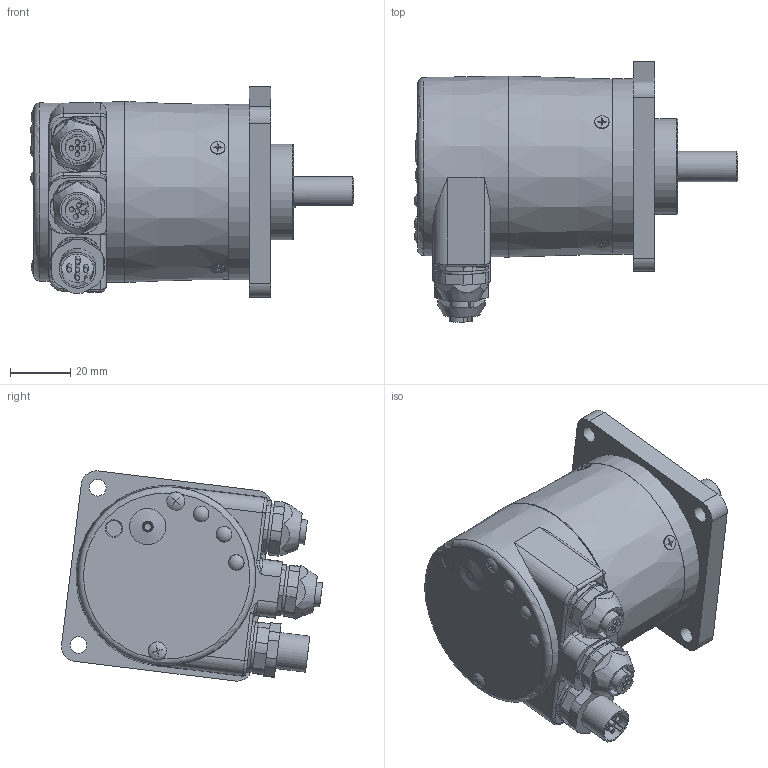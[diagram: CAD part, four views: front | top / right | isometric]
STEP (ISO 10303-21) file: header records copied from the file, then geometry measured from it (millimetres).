
FILE_DESCRIPTION (( 'STEP AP214' ), '1' );
FILE_NAME ('8.5868.5252.2123.STEP', '2017-01-31T07:15:39', ( '' ), ( '' ), 'SwSTEP 2.0', 'SolidWorks 2013', '' );
FILE_SCHEMA (( 'AUTOMOTIVE_DESIGN' ));
Length unit declared in the file: millimetre
Products named in the file (1): 8.5868.5252.2123
Bounding box: 107.2 x 86.41 x 69.61 mm (x, y, z)
Surface area: 32809.7 mm2 (no closed solid volume)
Topology: 0 solids, 23 shells, 357 faces, 911 edges, 586 vertices
Faces by surface type: plane 203, cylinder 113, cone 16, bspline 12, sphere 7, torus 6
Full cylindrical faces by diameter (mm): 1.6 x15, 3.2 x1, 4.7 x4, 5.1 x3, 5.2 x3, 5.5 x4, 6 x2, 10 x1, 10.753 x2, 12 x2, 16.3 x2, 16.5 x1, 26 x1, 28 x1, 31.75 x1, 58 x1
Entity records: 15480 total; most frequent: CARTESIAN_POINT 3161, DIRECTION 1769, ORIENTED_EDGE 1543, EDGE_CURVE 834, AXIS2_PLACEMENT_3D 639, VERTEX_POINT 579, LINE 491, VECTOR 491
